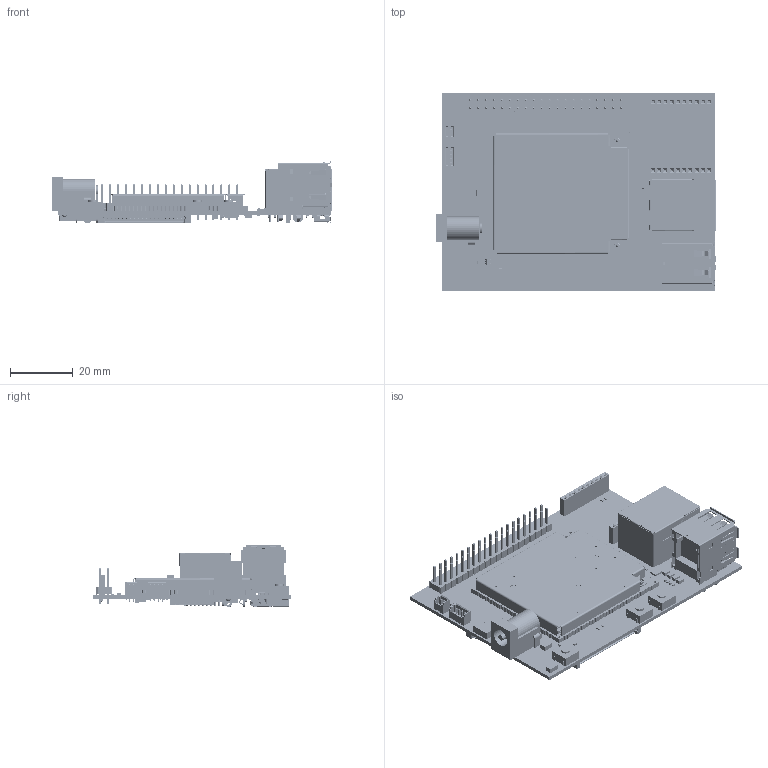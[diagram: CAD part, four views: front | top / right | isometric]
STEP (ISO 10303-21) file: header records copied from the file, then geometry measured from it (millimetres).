
FILE_DESCRIPTION(('Open CASCADE Model'),'2;1');
FILE_NAME('Open CASCADE Shape Model','2021-04-15T16:19:16',('Author'),( 'Open CASCADE'),'Open CASCADE STEP processor 6.8','Open CASCADE 6.8' ,'Unknown');
FILE_SCHEMA(('AUTOMOTIVE_DESIGN { 1 0 10303 214 1 1 1 1 }'));
Length unit declared in the file: millimetre
Products named in the file (804): PCB; Board; Open CASCADE STEP translator 6.8 10.1.1; R48; 8127693520; Extruded; 8127691280; R49; U4; SOT95P240X110-3L20; R76; 6964274912; R75; 6964270672; R74; R73; R72; R70; 7452013440; R69; Q1; 7368011600; 7368011760; C32; CAPC1005X55L25; C31; C30; C29; CAPC2113X145L50; R65; R64; R63; C21; U2; 13631988656; R24; J11; Download_STP_61304021121; 6130xx21121_PIN; 61304021121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
Assembly tree (1540 placements, depth 6):
  PCB
    Board
      Open CASCADE STEP translator 6.8 10.1.1
    R48
      8127693520  x2
        Extruded
      8127691280
        Extruded
    R49
      8127693520  x2
        Extruded
      8127691280
        Extruded
    U4
      SOT95P240X110-3L20
    R76
      6964274912
    R75
      6964270672
    R74
      6964270672
    R73
      6964274912
    R72
      6964270672
    R70
      7452013440
    R69
      7452013440
    Q1
      7368011600  x3
        Extruded
      7368011760
        Extruded
    C32
      CAPC1005X55L25
    C31
      CAPC1005X55L25
    C30
      CAPC1005X55L25
    C29
      CAPC2113X145L50
    R65
      6964270672
    R64
      6964270672
    R63
      6964270672
    C21
      CAPC1005X55L25
    U2
      13631988656
    R24
      8127693520  x2
        Extruded
      8127691280
        Extruded
    J11
      Download_STP_61304021121
        6130xx21121_PIN  x40
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Bounding box: 89.68 x 63 x 20.07 mm (x, y, z)
Volume: 19302.5 mm3; surface area: 40042.1 mm2
Topology: 3103 solids, 3103 shells, 37008 faces, 87275 edges, 48754 vertices
Faces by surface type: plane 19030, cylinder 11969, bspline 5765, sphere 217, cone 23, torus 4
Entity records: 370470 total; most frequent: CARTESIAN_POINT 84431, DIRECTION 43870, ORIENTED_EDGE 43518, EDGE_CURVE 21759, LINE 16710, VECTOR 16710, VERTEX_POINT 14826, AXIS2_PLACEMENT_3D 13580
